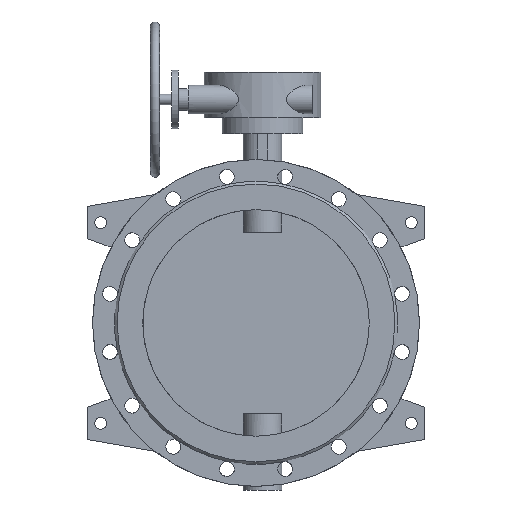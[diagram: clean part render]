
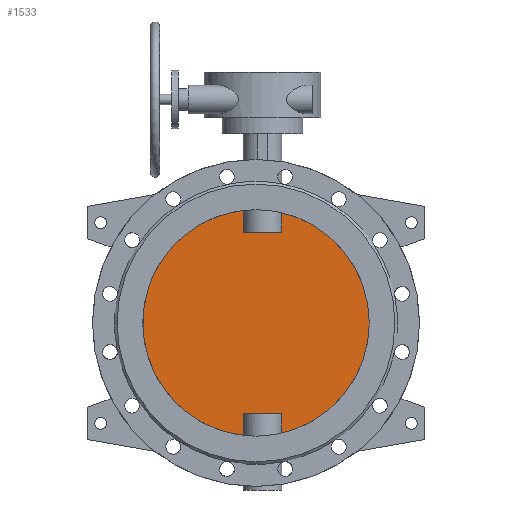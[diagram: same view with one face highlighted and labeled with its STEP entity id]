
A CAD part, front view. The second image highlights one B-rep face of the part: STEP entity #1533.
In plain terms, the highlighted planar face has unit normal (0, -1, 0).
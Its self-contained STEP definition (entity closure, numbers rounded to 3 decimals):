
#1533=ADVANCED_FACE('',(#3157),#3159,.F.);
#3157=FACE_BOUND('',#3158,.T.);
#3158=EDGE_LOOP('',(#4104,#4105,#4106,#4107,#4108,#4109,#4110,#4111));
#3159=PLANE('',#3160);
#3160=AXIS2_PLACEMENT_3D('',#3161,#3162,#3163);
#3161=CARTESIAN_POINT('',(0.,-5.,0.));
#3162=DIRECTION('',(0.,1.,0.));
#3163=DIRECTION('',(1.,0.,0.));
#4104=ORIENTED_EDGE('',*,*,#4562,.T.);
#4105=ORIENTED_EDGE('',*,*,#4568,.T.);
#4106=ORIENTED_EDGE('',*,*,#4569,.T.);
#4107=ORIENTED_EDGE('',*,*,#4570,.T.);
#4108=ORIENTED_EDGE('',*,*,#4564,.T.);
#4109=ORIENTED_EDGE('',*,*,#4571,.T.);
#4110=ORIENTED_EDGE('',*,*,#4572,.T.);
#4111=ORIENTED_EDGE('',*,*,#4573,.T.);
#4562=EDGE_CURVE('',#5310,#5311,#5312,.F.);
#4564=EDGE_CURVE('',#5315,#5313,#5316,.F.);
#4568=EDGE_CURVE('',#5311,#5322,#5323,.T.);
#4569=EDGE_CURVE('',#5322,#5324,#5325,.F.);
#4570=EDGE_CURVE('',#5324,#5315,#5326,.F.);
#4571=EDGE_CURVE('',#5313,#5327,#5328,.F.);
#4572=EDGE_CURVE('',#5327,#5329,#5330,.F.);
#4573=EDGE_CURVE('',#5329,#5310,#5331,.T.);
#5310=VERTEX_POINT('',#8240);
#5311=VERTEX_POINT('',#8241);
#5312=CIRCLE('',#8242,175.);
#5313=VERTEX_POINT('',#8246);
#5315=VERTEX_POINT('',#8349);
#5316=CIRCLE('',#8350,175.);
#5322=VERTEX_POINT('',#8467);
#5323=LINE('',#8468,#8469);
#5324=VERTEX_POINT('',#8471);
#5325=LINE('',#8472,#8473);
#5326=LINE('',#8475,#8476);
#5327=VERTEX_POINT('',#8478);
#5328=LINE('',#8479,#8480);
#5329=VERTEX_POINT('',#8482);
#5330=LINE('',#8483,#8484);
#5331=LINE('',#8486,#8487);
#8240=CARTESIAN_POINT('',(39.58,-5.,-170.465));
#8241=CARTESIAN_POINT('',(39.58,-5.,170.465));
#8242=AXIS2_PLACEMENT_3D('',#8243,#8244,#8245);
#8243=CARTESIAN_POINT('',(0.,-5.,0.));
#8244=DIRECTION('',(0.,1.,0.));
#8245=DIRECTION('',(0.226,0.,0.974));
#8246=CARTESIAN_POINT('',(-19.58,-5.,-173.901));
#8349=CARTESIAN_POINT('',(-19.58,-5.,173.901));
#8350=AXIS2_PLACEMENT_3D('',#8351,#8352,#8353);
#8351=CARTESIAN_POINT('',(0.,-5.,0.));
#8352=DIRECTION('',(0.,1.,0.));
#8353=DIRECTION('',(-0.112,0.,-0.994));
#8467=CARTESIAN_POINT('',(39.58,-5.,140.));
#8468=CARTESIAN_POINT('',(39.58,-5.,170.465));
#8469=VECTOR('',#8470,1.);
#8470=DIRECTION('',(0.,0.,-1.));
#8471=CARTESIAN_POINT('',(-19.58,-5.,140.));
#8472=CARTESIAN_POINT('',(-19.58,-5.,140.));
#8473=VECTOR('',#8474,1.);
#8474=DIRECTION('',(1.,0.,0.));
#8475=CARTESIAN_POINT('',(-19.58,-5.,173.901));
#8476=VECTOR('',#8477,1.);
#8477=DIRECTION('',(0.,0.,-1.));
#8478=CARTESIAN_POINT('',(-19.58,-5.,-140.));
#8479=CARTESIAN_POINT('',(-19.58,-5.,-140.));
#8480=VECTOR('',#8481,1.);
#8481=DIRECTION('',(0.,0.,-1.));
#8482=CARTESIAN_POINT('',(39.58,-5.,-140.));
#8483=CARTESIAN_POINT('',(39.58,-5.,-140.));
#8484=VECTOR('',#8485,1.);
#8485=DIRECTION('',(-1.,0.,0.));
#8486=CARTESIAN_POINT('',(39.58,-5.,-140.));
#8487=VECTOR('',#8488,1.);
#8488=DIRECTION('',(0.,0.,-1.));
